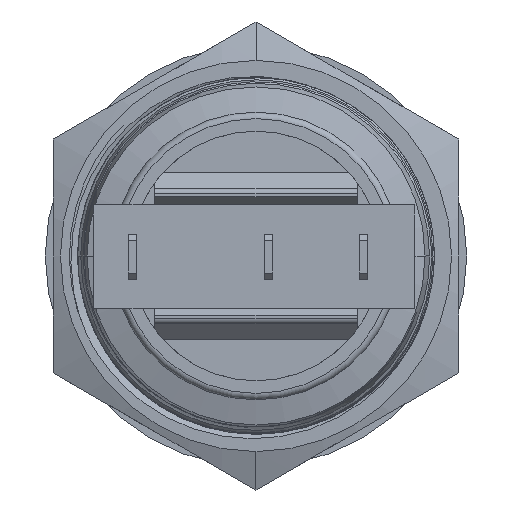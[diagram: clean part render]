
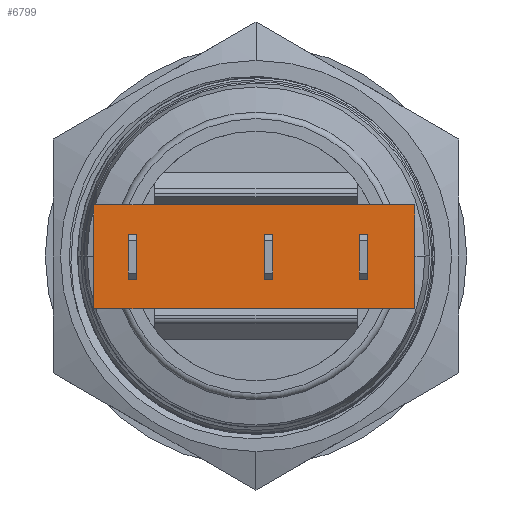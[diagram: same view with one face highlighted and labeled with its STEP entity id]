
A CAD part, front view. The second image highlights one B-rep face of the part: STEP entity #6799.
In plain terms, the highlighted planar face has unit normal (0, -1, 0).
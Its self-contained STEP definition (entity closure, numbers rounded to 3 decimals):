
#6122=DIRECTION('',(1.,0.,0.));
#6123=VECTOR('',#6122,19.8);
#6124=CARTESIAN_POINT('',(-10.,-10.3,-3.25));
#6125=LINE('',#6124,#6123);
#6176=DIRECTION('',(0.,0.,1.));
#6177=VECTOR('',#6176,6.4);
#6178=CARTESIAN_POINT('',(9.8,-10.3,-3.25));
#6179=LINE('',#6178,#6177);
#6180=DIRECTION('',(0.,0.,1.));
#6181=VECTOR('',#6180,6.4);
#6182=CARTESIAN_POINT('',(-10.,-10.3,-3.25));
#6183=LINE('',#6182,#6181);
#6184=DIRECTION('',(0.,0.,-1.));
#6185=VECTOR('',#6184,2.8);
#6186=CARTESIAN_POINT('',(-7.875,-10.3,1.35));
#6187=LINE('',#6186,#6185);
#6188=DIRECTION('',(1.,0.,0.));
#6189=VECTOR('',#6188,0.5);
#6190=CARTESIAN_POINT('',(-7.875,-10.3,-1.45));
#6191=LINE('',#6190,#6189);
#6192=DIRECTION('',(0.,0.,1.));
#6193=VECTOR('',#6192,2.8);
#6194=CARTESIAN_POINT('',(-7.375,-10.3,-1.45));
#6195=LINE('',#6194,#6193);
#6196=DIRECTION('',(-1.,0.,0.));
#6197=VECTOR('',#6196,0.5);
#6198=CARTESIAN_POINT('',(-7.375,-10.3,1.35));
#6199=LINE('',#6198,#6197);
#6200=DIRECTION('',(0.,0.,-1.));
#6201=VECTOR('',#6200,2.8);
#6202=CARTESIAN_POINT('',(0.525,-10.3,1.35));
#6203=LINE('',#6202,#6201);
#6204=DIRECTION('',(1.,0.,0.));
#6205=VECTOR('',#6204,0.5);
#6206=CARTESIAN_POINT('',(0.525,-10.3,-1.45));
#6207=LINE('',#6206,#6205);
#6208=DIRECTION('',(0.,0.,1.));
#6209=VECTOR('',#6208,2.8);
#6210=CARTESIAN_POINT('',(1.025,-10.3,-1.45));
#6211=LINE('',#6210,#6209);
#6212=DIRECTION('',(-1.,0.,0.));
#6213=VECTOR('',#6212,0.5);
#6214=CARTESIAN_POINT('',(1.025,-10.3,1.35));
#6215=LINE('',#6214,#6213);
#6216=DIRECTION('',(0.,0.,-1.));
#6217=VECTOR('',#6216,2.8);
#6218=CARTESIAN_POINT('',(6.375,-10.3,1.35));
#6219=LINE('',#6218,#6217);
#6220=DIRECTION('',(1.,0.,0.));
#6221=VECTOR('',#6220,0.5);
#6222=CARTESIAN_POINT('',(6.375,-10.3,-1.45));
#6223=LINE('',#6222,#6221);
#6224=DIRECTION('',(0.,0.,1.));
#6225=VECTOR('',#6224,2.8);
#6226=CARTESIAN_POINT('',(6.875,-10.3,-1.45));
#6227=LINE('',#6226,#6225);
#6228=DIRECTION('',(-1.,0.,0.));
#6229=VECTOR('',#6228,0.5);
#6230=CARTESIAN_POINT('',(6.875,-10.3,1.35));
#6231=LINE('',#6230,#6229);
#6254=DIRECTION('',(1.,0.,0.));
#6255=VECTOR('',#6254,19.8);
#6256=CARTESIAN_POINT('',(-10.,-10.3,3.15));
#6257=LINE('',#6256,#6255);
#6533=CARTESIAN_POINT('',(-10.,-10.3,-3.25));
#6535=VERTEX_POINT('',#6533);
#6536=CARTESIAN_POINT('',(9.8,-10.3,-3.25));
#6537=VERTEX_POINT('',#6536);
#6553=CARTESIAN_POINT('',(-10.,-10.3,3.15));
#6555=VERTEX_POINT('',#6553);
#6556=CARTESIAN_POINT('',(9.8,-10.3,3.15));
#6557=VERTEX_POINT('',#6556);
#6576=CARTESIAN_POINT('',(-7.875,-10.3,1.35));
#6577=CARTESIAN_POINT('',(-7.875,-10.3,-1.45));
#6578=VERTEX_POINT('',#6576);
#6579=VERTEX_POINT('',#6577);
#6580=CARTESIAN_POINT('',(-7.375,-10.3,-1.45));
#6581=VERTEX_POINT('',#6580);
#6582=CARTESIAN_POINT('',(-7.375,-10.3,1.35));
#6583=VERTEX_POINT('',#6582);
#6584=CARTESIAN_POINT('',(0.525,-10.3,1.35));
#6585=CARTESIAN_POINT('',(0.525,-10.3,-1.45));
#6586=VERTEX_POINT('',#6584);
#6587=VERTEX_POINT('',#6585);
#6588=CARTESIAN_POINT('',(1.025,-10.3,-1.45));
#6589=VERTEX_POINT('',#6588);
#6590=CARTESIAN_POINT('',(1.025,-10.3,1.35));
#6591=VERTEX_POINT('',#6590);
#6592=CARTESIAN_POINT('',(6.375,-10.3,1.35));
#6593=CARTESIAN_POINT('',(6.375,-10.3,-1.45));
#6594=VERTEX_POINT('',#6592);
#6595=VERTEX_POINT('',#6593);
#6596=CARTESIAN_POINT('',(6.875,-10.3,-1.45));
#6597=VERTEX_POINT('',#6596);
#6598=CARTESIAN_POINT('',(6.875,-10.3,1.35));
#6599=VERTEX_POINT('',#6598);
#6757=CARTESIAN_POINT('',(-10.,-10.3,-3.25));
#6758=DIRECTION('',(0.,-1.,0.));
#6759=DIRECTION('',(1.,0.,0.));
#6760=AXIS2_PLACEMENT_3D('',#6757,#6758,#6759);
#6761=PLANE('',#6760);
#6762=ORIENTED_EDGE('',*,*,#6679,.F.);
#6763=ORIENTED_EDGE('',*,*,#6714,.T.);
#6765=ORIENTED_EDGE('',*,*,#6764,.T.);
#6766=ORIENTED_EDGE('',*,*,#6749,.F.);
#6767=EDGE_LOOP('',(#6762,#6763,#6765,#6766));
#6768=FACE_OUTER_BOUND('',#6767,.F.);
#6770=ORIENTED_EDGE('',*,*,#6769,.T.);
#6772=ORIENTED_EDGE('',*,*,#6771,.T.);
#6774=ORIENTED_EDGE('',*,*,#6773,.T.);
#6776=ORIENTED_EDGE('',*,*,#6775,.T.);
#6777=EDGE_LOOP('',(#6770,#6772,#6774,#6776));
#6778=FACE_BOUND('',#6777,.F.);
#6780=ORIENTED_EDGE('',*,*,#6779,.T.);
#6782=ORIENTED_EDGE('',*,*,#6781,.T.);
#6784=ORIENTED_EDGE('',*,*,#6783,.T.);
#6786=ORIENTED_EDGE('',*,*,#6785,.T.);
#6787=EDGE_LOOP('',(#6780,#6782,#6784,#6786));
#6788=FACE_BOUND('',#6787,.F.);
#6790=ORIENTED_EDGE('',*,*,#6789,.T.);
#6792=ORIENTED_EDGE('',*,*,#6791,.T.);
#6794=ORIENTED_EDGE('',*,*,#6793,.T.);
#6796=ORIENTED_EDGE('',*,*,#6795,.T.);
#6797=EDGE_LOOP('',(#6790,#6792,#6794,#6796));
#6798=FACE_BOUND('',#6797,.F.);
#6679=EDGE_CURVE('',#6535,#6537,#6125,.T.);
#6714=EDGE_CURVE('',#6535,#6555,#6183,.T.);
#6749=EDGE_CURVE('',#6537,#6557,#6179,.T.);
#6764=EDGE_CURVE('',#6555,#6557,#6257,.T.);
#6769=EDGE_CURVE('',#6578,#6579,#6187,.T.);
#6771=EDGE_CURVE('',#6579,#6581,#6191,.T.);
#6773=EDGE_CURVE('',#6581,#6583,#6195,.T.);
#6775=EDGE_CURVE('',#6583,#6578,#6199,.T.);
#6779=EDGE_CURVE('',#6586,#6587,#6203,.T.);
#6781=EDGE_CURVE('',#6587,#6589,#6207,.T.);
#6783=EDGE_CURVE('',#6589,#6591,#6211,.T.);
#6785=EDGE_CURVE('',#6591,#6586,#6215,.T.);
#6789=EDGE_CURVE('',#6594,#6595,#6219,.T.);
#6791=EDGE_CURVE('',#6595,#6597,#6223,.T.);
#6793=EDGE_CURVE('',#6597,#6599,#6227,.T.);
#6795=EDGE_CURVE('',#6599,#6594,#6231,.T.);
#6799=ADVANCED_FACE('',(#6768,#6778,#6788,#6798),#6761,.T.);
